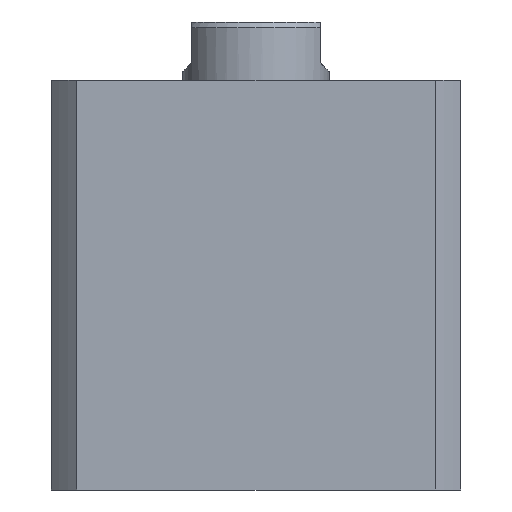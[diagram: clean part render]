
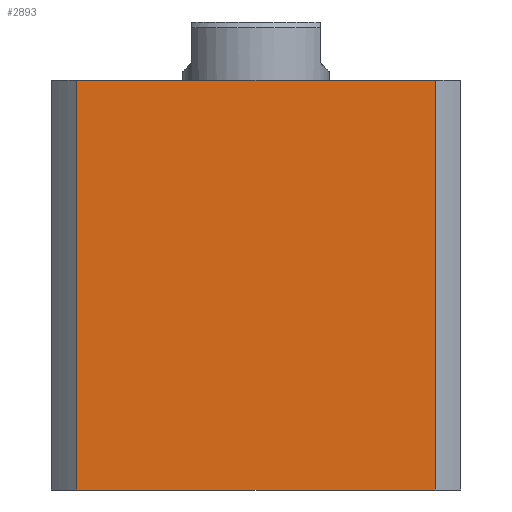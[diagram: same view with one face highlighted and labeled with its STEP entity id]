
A CAD part, front view. The second image highlights one B-rep face of the part: STEP entity #2893.
In plain terms, the highlighted planar face has unit normal (0, -1, 0).
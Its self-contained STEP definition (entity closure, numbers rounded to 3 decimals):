
#185 = CARTESIAN_POINT ( 'NONE',  ( 0., -35., 70. ) ) ;
#186 = DIRECTION ( 'NONE',  ( 1., 0., 0. ) ) ;
#266 = DIRECTION ( 'NONE',  ( 0., 0., -1. ) ) ;
#269 = CARTESIAN_POINT ( 'NONE',  ( -30.615, -35., 70. ) ) ;
#271 = CARTESIAN_POINT ( 'NONE',  ( 0., -35., 0. ) ) ;
#275 = DIRECTION ( 'NONE',  ( 1., 0., 0. ) ) ;
#276 = CARTESIAN_POINT ( 'NONE',  ( 30.615, -35., 70. ) ) ;
#277 = DIRECTION ( 'NONE',  ( 0., 0., -1. ) ) ;
#424 = CARTESIAN_POINT ( 'NONE',  ( 30.615, -35., 0. ) ) ;
#443 = CARTESIAN_POINT ( 'NONE',  ( -30.615, -35., 0. ) ) ;
#491 = CARTESIAN_POINT ( 'NONE',  ( -30.615, -35., 70. ) ) ;
#521 = CARTESIAN_POINT ( 'NONE',  ( 30.615, -35., 70. ) ) ;
#1494 = ORIENTED_EDGE ( 'NONE', *, *, #4004, .T. ) ;
#1517 = ORIENTED_EDGE ( 'NONE', *, *, #4003, .T. ) ;
#1518 = ORIENTED_EDGE ( 'NONE', *, *, #3421, .F. ) ;
#1519 = ORIENTED_EDGE ( 'NONE', *, *, #4005, .F. ) ;
#1727 = CARTESIAN_POINT ( 'NONE',  ( 0., -35., 70. ) ) ;
#1729 = PLANE ( 'NONE',  #2661 ) ;
#1732 = DIRECTION ( 'NONE',  ( 0., 1., 0. ) ) ;
#1733 = DIRECTION ( 'NONE',  ( 0., 0., 1. ) ) ;
#2661 = AXIS2_PLACEMENT_3D ( 'NONE', #1727, #1732, #1733 ) ;
#2893 = ADVANCED_FACE ( 'NONE', ( #4424 ), #1729, .F. ) ;
#3421 = EDGE_CURVE ( 'NONE', #4969, #4987, #4678, .T. ) ;
#3694 = EDGE_LOOP ( 'NONE', ( #1494, #1519, #1518, #1517 ) ) ;
#4003 = EDGE_CURVE ( 'NONE', #4969, #4885, #4711, .T. ) ;
#4004 = EDGE_CURVE ( 'NONE', #4885, #4860, #4709, .T. ) ;
#4005 = EDGE_CURVE ( 'NONE', #4987, #4860, #4714, .T. ) ;
#4424 = FACE_OUTER_BOUND ( 'NONE', #3694, .T. ) ;
#4678 = LINE ( 'NONE', #185, #4680 ) ;
#4680 = VECTOR ( 'NONE', #186, 1000. ) ;
#4709 = LINE ( 'NONE', #271, #4715 ) ;
#4711 = LINE ( 'NONE', #269, #4713 ) ;
#4713 = VECTOR ( 'NONE', #266, 1000. ) ;
#4714 = LINE ( 'NONE', #276, #4717 ) ;
#4715 = VECTOR ( 'NONE', #275, 1000. ) ;
#4717 = VECTOR ( 'NONE', #277, 1000. ) ;
#4860 = VERTEX_POINT ( 'NONE', #424 ) ;
#4885 = VERTEX_POINT ( 'NONE', #443 ) ;
#4969 = VERTEX_POINT ( 'NONE', #491 ) ;
#4987 = VERTEX_POINT ( 'NONE', #521 ) ;
